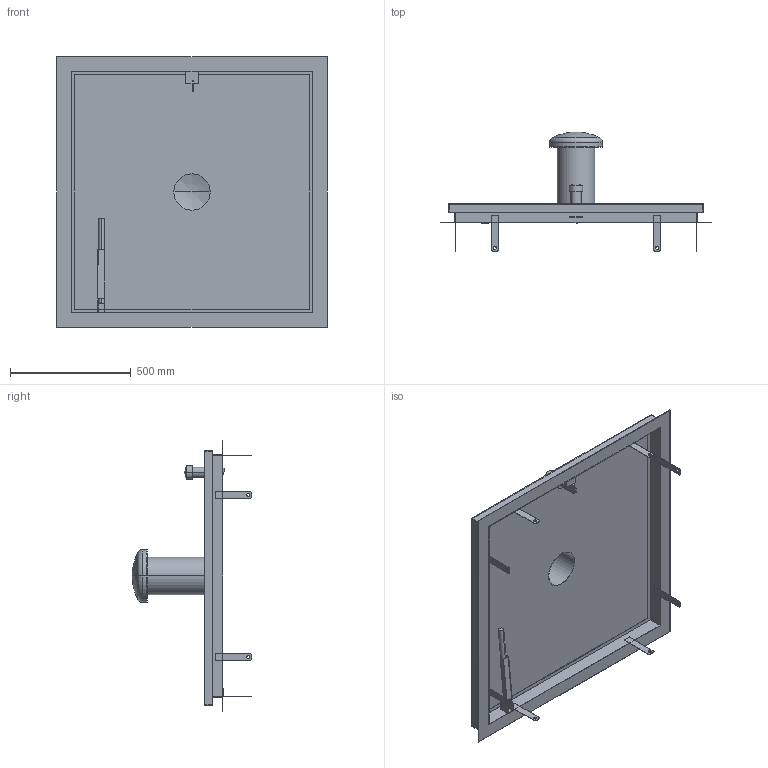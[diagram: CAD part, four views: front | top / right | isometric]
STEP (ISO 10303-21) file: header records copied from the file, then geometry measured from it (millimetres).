
FILE_DESCRIPTION((''),'2;1');
FILE_NAME('52335839','2024-12-19T07:42:34',('wep'),('HUBER SE'),'CREO PARAMETRIC BY PTC INC, 2022162','CREO PARAMETRIC BY PTC INC, 2022162','');
FILE_SCHEMA(('AUTOMOTIVE_DESIGN { 1 0 10303 214 1 1 1 1 }'));
Length unit declared in the file: millimetre
Products named in the file (1): 52335839
Bounding box: 1120 x 495 x 1120 mm (x, y, z)
Volume: 4334122.2 mm3; surface area: 4093520.9 mm2
Topology: 4 solids, 4 shells, 746 faces, 2024 edges, 1337 vertices
Faces by surface type: plane 418, extrusion 275, cylinder 43, torus 4, bspline 4, sphere 2
Entity records: 25338 total; most frequent: CARTESIAN_POINT 6844, ORIENTED_EDGE 4036, DIRECTION 2777, EDGE_CURVE 2018, VECTOR 1643, LINE 1368, VERTEX_POINT 1337, B_SPLINE_CURVE_WITH_KNOTS 825
